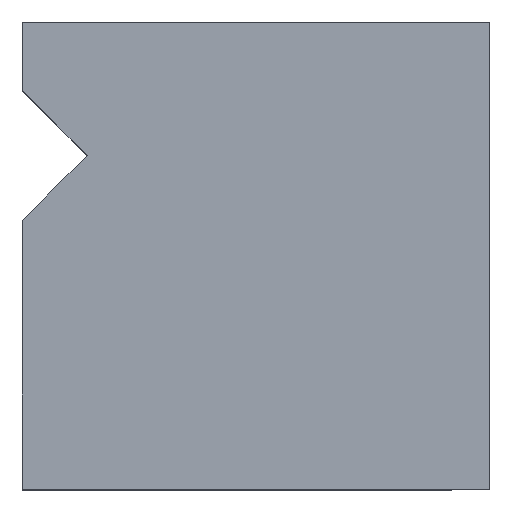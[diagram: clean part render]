
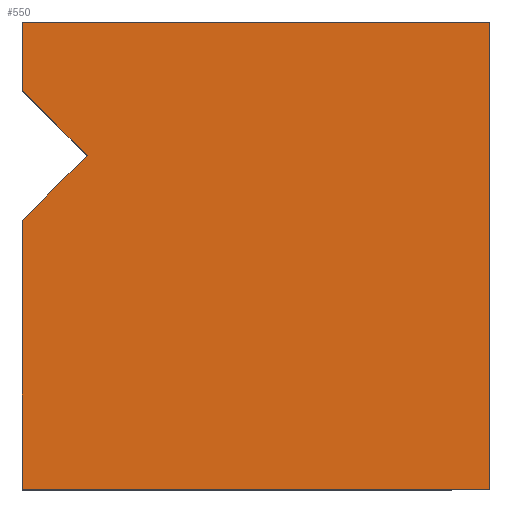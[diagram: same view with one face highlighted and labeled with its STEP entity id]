
A CAD part, top view. The second image highlights one B-rep face of the part: STEP entity #550.
In plain terms, the highlighted planar face has unit normal (0, 0, 1).
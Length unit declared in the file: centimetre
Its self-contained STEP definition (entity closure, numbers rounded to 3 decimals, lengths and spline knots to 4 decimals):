
#1 = ORIENTED_EDGE ( 'NONE', *, *, #281, .T. ) ;
#13 = LINE ( 'NONE', #619, #555 ) ;
#19 = VECTOR ( 'NONE', #1102, 100. ) ;
#20 = LINE ( 'NONE', #459, #900 ) ;
#29 = DIRECTION ( 'NONE',  ( 0., 1., 0. ) ) ;
#32 = CARTESIAN_POINT ( 'NONE',  ( 0., 1000., 1000. ) ) ;
#40 = DIRECTION ( 'NONE',  ( 1., 0., 0. ) ) ;
#47 = LINE ( 'NONE', #309, #261 ) ;
#75 = PLANE ( 'NONE',  #807 ) ;
#110 = LINE ( 'NONE', #196, #714 ) ;
#160 = FACE_OUTER_BOUND ( 'NONE', #964, .T. ) ;
#196 = CARTESIAN_POINT ( 'NONE',  ( 0., 1000., 1000. ) ) ;
#209 = EDGE_CURVE ( 'NONE', #581, #727, #13, .T. ) ;
#216 = EDGE_CURVE ( 'NONE', #693, #242, #110, .T. ) ;
#221 = VERTEX_POINT ( 'NONE', #554 ) ;
#242 = VERTEX_POINT ( 'NONE', #707 ) ;
#257 = DIRECTION ( 'NONE',  ( 0., 0., 1. ) ) ;
#261 = VECTOR ( 'NONE', #40, 100. ) ;
#275 = CARTESIAN_POINT ( 'NONE',  ( 0., 575.5786, 1000. ) ) ;
#281 = EDGE_CURVE ( 'NONE', #221, #693, #1054, .T. ) ;
#286 = VERTEX_POINT ( 'NONE', #622 ) ;
#288 = DIRECTION ( 'NONE',  ( 0.707, -0.707, 0. ) ) ;
#309 = CARTESIAN_POINT ( 'NONE',  ( 0., 0., 1000. ) ) ;
#341 = EDGE_CURVE ( 'NONE', #681, #286, #844, .T. ) ;
#346 = CARTESIAN_POINT ( 'NONE',  ( 1000., 1000., 1000. ) ) ;
#406 = CARTESIAN_POINT ( 'NONE',  ( 0., 1000., 1000. ) ) ;
#413 = EDGE_CURVE ( 'NONE', #242, #581, #47, .T. ) ;
#421 = CARTESIAN_POINT ( 'NONE',  ( 0., 0., 1000. ) ) ;
#449 = ORIENTED_EDGE ( 'NONE', *, *, #209, .T. ) ;
#458 = LINE ( 'NONE', #730, #884 ) ;
#459 = CARTESIAN_POINT ( 'NONE',  ( 0., 1000., 1000. ) ) ;
#464 = ORIENTED_EDGE ( 'NONE', *, *, #817, .T. ) ;
#541 = ORIENTED_EDGE ( 'NONE', *, *, #413, .T. ) ;
#546 = CARTESIAN_POINT ( 'NONE',  ( 1000., 0., 1000. ) ) ;
#550 = ADVANCED_FACE ( 'NONE', ( #160 ), #75, .T. ) ;
#554 = CARTESIAN_POINT ( 'NONE',  ( 138.9264, 714.505, 1000. ) ) ;
#555 = VECTOR ( 'NONE', #29, 100. ) ;
#573 = VECTOR ( 'NONE', #632, 100. ) ;
#581 = VERTEX_POINT ( 'NONE', #546 ) ;
#604 = DIRECTION ( 'NONE',  ( 1., 0., 0. ) ) ;
#618 = ORIENTED_EDGE ( 'NONE', *, *, #216, .T. ) ;
#619 = CARTESIAN_POINT ( 'NONE',  ( 1000., 1000., 1000. ) ) ;
#622 = CARTESIAN_POINT ( 'NONE',  ( 0., 853.4314, 1000. ) ) ;
#632 = DIRECTION ( 'NONE',  ( -0.707, -0.707, 0. ) ) ;
#658 = EDGE_CURVE ( 'NONE', #727, #681, #20, .T. ) ;
#681 = VERTEX_POINT ( 'NONE', #406 ) ;
#693 = VERTEX_POINT ( 'NONE', #711 ) ;
#707 = CARTESIAN_POINT ( 'NONE',  ( 0., 0., 1000. ) ) ;
#711 = CARTESIAN_POINT ( 'NONE',  ( 0., 575.5786, 1000. ) ) ;
#714 = VECTOR ( 'NONE', #965, 100. ) ;
#727 = VERTEX_POINT ( 'NONE', #346 ) ;
#730 = CARTESIAN_POINT ( 'NONE',  ( 138.9264, 714.505, 1000. ) ) ;
#807 = AXIS2_PLACEMENT_3D ( 'NONE', #421, #257, #604 ) ;
#810 = DIRECTION ( 'NONE',  ( -1., 0., 0. ) ) ;
#817 = EDGE_CURVE ( 'NONE', #286, #221, #458, .T. ) ;
#844 = LINE ( 'NONE', #32, #19 ) ;
#884 = VECTOR ( 'NONE', #288, 100. ) ;
#900 = VECTOR ( 'NONE', #810, 100. ) ;
#920 = ORIENTED_EDGE ( 'NONE', *, *, #341, .T. ) ;
#964 = EDGE_LOOP ( 'NONE', ( #1, #618, #541, #449, #1041, #920, #464 ) ) ;
#965 = DIRECTION ( 'NONE',  ( 0., -1., 0. ) ) ;
#1041 = ORIENTED_EDGE ( 'NONE', *, *, #658, .T. ) ;
#1054 = LINE ( 'NONE', #275, #573 ) ;
#1102 = DIRECTION ( 'NONE',  ( 0., -1., 0. ) ) ;
